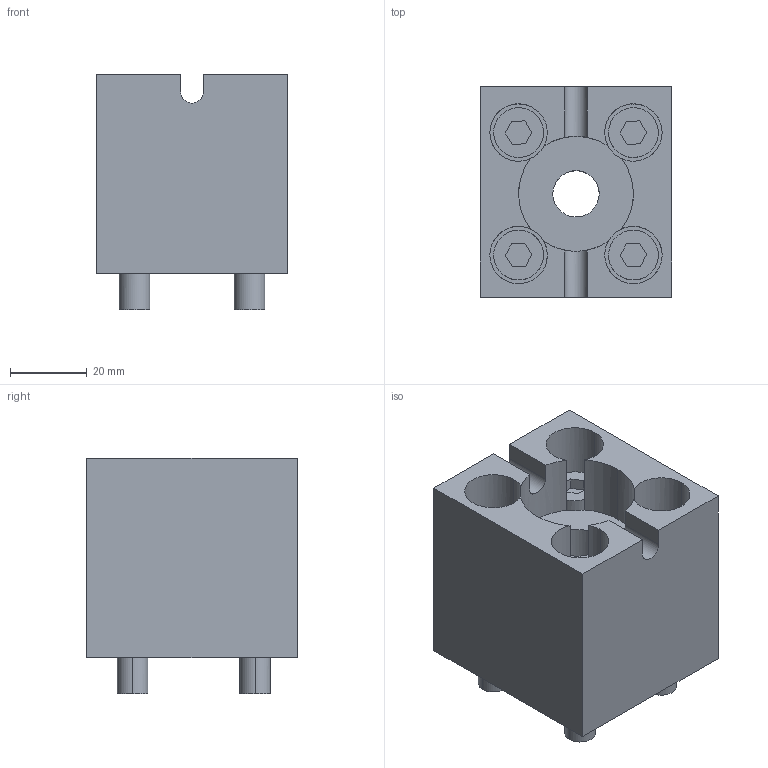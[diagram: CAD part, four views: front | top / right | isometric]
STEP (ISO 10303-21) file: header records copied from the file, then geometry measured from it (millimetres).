
FILE_DESCRIPTION(('STEP AP214'),'1');
FILE_NAME('EGT176_I_1706239_RD30_K50_63_HH.CATPart.stp','2015-09-14T13:11:00',('3D-Tool'),(' '),'Spatial InterOp 3D',' ',' ');
FILE_SCHEMA(('automotive_design'));
Length unit declared in the file: millimetre
Products named in the file (5): EGT176_I_1706239_RD30_K50_63_HH|EGT_176_RD30_K50_63_HH_ET.1_Hauptkörper|EGT_176_RD30_K50_63_HH_ET.1_Hauptkörper; EGT176_I_1706239_RD30_K50_63_HH|DIN912_ZYLINDERSCHRAUBE_M8X40_KPL.1|DIN912_ZYLINDERSCHRAUBE_M8X40_KPL.1; EGT176_I_1706239_RD30_K50_63_HH|DIN912_ZYLINDERSCHRAUBE_M8X40_KPL.2|DIN912_ZYLINDERSCHRAUBE_M8X40_KPL.2; EGT176_I_1706239_RD30_K50_63_HH|DIN912_ZYLINDERSCHRAUBE_M8X40_KPL.3|DIN912_ZYLINDERSCHRAUBE_M8X40_KPL.3; EGT176_I_1706239_RD30_K50_63_HH|DIN912_ZYLINDERSCHRAUBE_M8X40_KPL.4|DIN912_ZYLINDERSCHRAUBE_M8X40_KPL.4
Bounding box: 50 x 55 x 61.4 mm (x, y, z)
Volume: 112307.8 mm3; surface area: 33003.7 mm2
Topology: 5 solids, 5 shells, 113 faces, 310 edges, 220 vertices
Faces by surface type: plane 61, cylinder 52
Entity records: 4501 total; most frequent: CARTESIAN_POINT 1312, ORIENTED_EDGE 620, EDGE_CURVE 310, DIRECTION 238, VERTEX_POINT 220, B_SPLINE_CURVE_WITH_KNOTS 156, EDGE_LOOP 136, STYLED_ITEM 118
